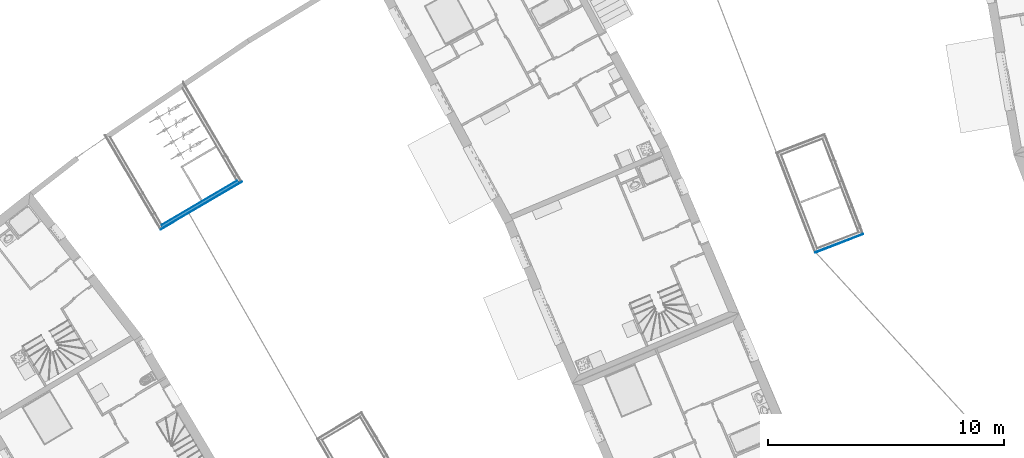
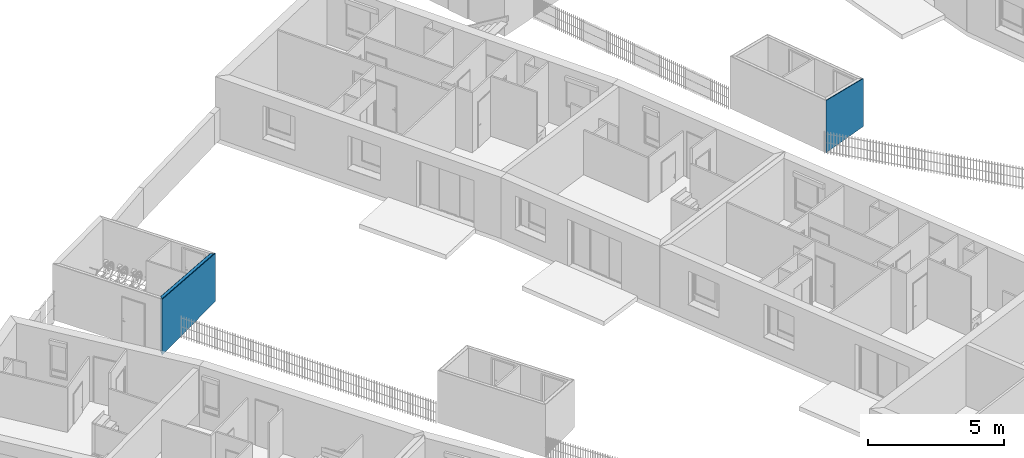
# One storey, part 126 of 195: 6 building element parts, 2 elements without a shape of their own.
"""IFC2X3 building model written with IfcOpenShell, lengths in metres."""

from ifc_helpers import new_model, entity, si_unit, converted_unit, derived_unit, money_unit, direction, frame, origin_with_axes, place, context, subcontext, project, spatial, polyline, outline, extrude, boolean, faceted_brep, material, type_object, element, aggregate, save


model = new_model("IFC2X3")

# Units and contexts
model_context = context("Model", 3, precision=1e-05, world=origin_with_axes(), true_north=direction((0.0, 1.0)))
body_context = subcontext(model_context, "Body", "Model", "MODEL_VIEW")
ifc_project = project(units=[si_unit("LENGTHUNIT", "METRE"), si_unit("AREAUNIT", "SQUARE_METRE"), si_unit("VOLUMEUNIT", "CUBIC_METRE"), converted_unit("PLANEANGLEUNIT", "DEGREE", entity("IfcPlaneAngleMeasure", 0.0174532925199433), si_unit("PLANEANGLEUNIT", "RADIAN"), dimensions=[0, 0, 0, 0, 0, 0, 0]), money_unit("CHF"), converted_unit("TIMEUNIT", "Year", entity("IfcTimeMeasure", 31557600.0), si_unit("TIMEUNIT", "SECOND"), dimensions=[0, 0, 1, 0, 0, 0, 0]), si_unit("MASSUNIT", "GRAM", prefix="KILO"), si_unit("THERMODYNAMICTEMPERATUREUNIT", "DEGREE_CELSIUS"), si_unit("LUMINOUSINTENSITYUNIT", "LUMEN"), si_unit("ENERGYUNIT", "JOULE", prefix="MEGA"), derived_unit("THERMALCONDUCTANCEUNIT", [(si_unit("POWERUNIT", "WATT"), 1), (si_unit("LENGTHUNIT", "METRE"), -1), (si_unit("THERMODYNAMICTEMPERATUREUNIT", "KELVIN"), -1)]), derived_unit("SPECIFICHEATCAPACITYUNIT", [(si_unit("ENERGYUNIT", "JOULE"), 1), (si_unit("MASSUNIT", "GRAM", prefix="KILO"), -1), (si_unit("THERMODYNAMICTEMPERATUREUNIT", "KELVIN"), -1)]), derived_unit("MASSDENSITYUNIT", [(si_unit("MASSUNIT", "GRAM", prefix="KILO"), 1), (si_unit("VOLUMEUNIT", "CUBIC_METRE"), -1)])], contexts=[model_context])

# Site, building, storey
site_placement = place(None, origin_with_axes())
site = spatial("IfcSite", under=ifc_project, at=site_placement, Name="Site", CompositionType="ELEMENT")
building_placement = place(site_placement, origin_with_axes())
building = spatial("IfcBuilding", under=site, at=building_placement, Name="Bâtiment", CompositionType="ELEMENT")
storey_placement = place(building_placement, origin_with_axes())
storey = spatial("IfcBuildingStorey", under=building, at=storey_placement, Name="rdc", CompositionType="ELEMENT", Elevation=0.0)

# Wall, building element parts
wall_type = type_object("IfcWallType", Name="1/Ossatur bois 160   non isol 160", PredefinedType="NOTDEFINED")
wall_1_placement = place(storey_placement, frame((9549.30767197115, -1036.786920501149, 57.7), z_axis=(0.0, 0.0, 1.0), x_axis=(-0.8619777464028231, -0.506946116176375, 0.0)))
wall_1 = element("IfcWall", 1, at=wall_1_placement, inside=storey, type_object=wall_type, Name="Mur-108")
ifc_material_1 = material(Name="Sans Trame 296962763")
building_element_part_1_placement = place(wall_1_placement, origin_with_axes())
building_element_part_1 = element("IfcBuildingElementPart", 2, at=building_element_part_1_placement, material=ifc_material_1, Name="Sans Trame 296962763", context=body_context, shape_type="CSG", body=[
    boolean("DIFFERENCE", boolean("DIFFERENCE", boolean("DIFFERENCE", boolean("DIFFERENCE", extrude(outline(polyline([(0.0, -0.1600000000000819), (4.000000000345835, -0.1600000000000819), (4.000000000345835, -0.1500000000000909), (0.0, -0.1499999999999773), (0.0, -0.1600000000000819)])), origin_with_axes(), (0.0, 0.0, 1.0), 2.75), faceted_brep([(3.850000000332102, -0.1500000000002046, 0.0), (3.849999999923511, -0.1500000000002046, 2.501056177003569), (0.15000000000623, -0.1500000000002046, 2.177348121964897), (0.15000000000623, -0.1500000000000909, 0.0), (0.0, -0.1499999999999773, 0.0), (0.0, -0.1499999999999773, 2.75), (4.000000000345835, -0.1500000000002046, 2.75), (4.000000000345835, -0.1500000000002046, 0.0), (3.840000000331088, -0.1600000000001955, 0.0), (3.840000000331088, -0.1600000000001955, 2.500181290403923), (0.160000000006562, -0.1599999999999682, 2.178223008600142), (0.160000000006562, -0.1599999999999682, 0.0), (0.0, -0.1600000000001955, 0.0), (0.0, -0.1600000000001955, 2.75), (4.000000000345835, -0.1600000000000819, 2.75), (4.000000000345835, -0.1600000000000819, 0.0)], [[[0, 1, 2, 3, 4, 5, 6, 7]], [[8, 9, 1, 0]], [[2, 1, 9, 10]], [[3, 2, 10, 11]], [[3, 11, 12, 4]], [[5, 4, 12, 13]], [[5, 13, 14, 6]], [[14, 15, 7, 6]], [[8, 0, 7, 15]], [[9, 8, 15, 14, 13, 12, 11, 10]]])), faceted_brep([(3.97000000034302, -0.02999999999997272, 0.0), (3.969999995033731, -0.02999999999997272, 2.511554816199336), (0.03000000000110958, -0.02999999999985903, 2.16684948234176), (0.03000000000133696, -0.0300000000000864, 0.0), (0.0, -0.02999999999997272, 0.0), (0.0, -0.02999999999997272, 2.75), (4.000000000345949, -0.02999999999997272, 2.75), (4.000000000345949, -0.02999999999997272, 0.0), (3.850000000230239, -0.150000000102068, 0.0), (3.849999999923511, -0.1500000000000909, 2.501056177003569), (0.15000000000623, -0.1500000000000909, 2.177348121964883), (0.15000000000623, -0.1500000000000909, 0.0), (0.0, -0.1499999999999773, 0.0), (0.0, -0.1499999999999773, 2.75), (4.000000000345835, -0.1500000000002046, 2.75), (4.000000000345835, -0.1500000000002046, 0.0)], [[[0, 1, 2, 3, 4, 5, 6, 7]], [[8, 9, 1, 0]], [[2, 1, 9, 10]], [[3, 2, 10, 11]], [[3, 11, 12, 4]], [[5, 4, 12, 13]], [[5, 13, 14, 6]], [[14, 15, 7, 6]], [[8, 0, 7, 15]], [[9, 8, 15, 14, 13, 12, 11, 10]]])), faceted_brep([(3.990000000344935, -0.009999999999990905, 0.0), (3.98999999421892, -0.009999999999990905, 2.513304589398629), (0.01000000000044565, -0.009999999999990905, 2.165099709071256), (0.01000000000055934, -0.01000000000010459, 0.0), (0.0, -0.01000000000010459, 0.0), (0.0, -0.01000000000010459, 2.75), (4.000000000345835, -0.009999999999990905, 2.75), (4.000000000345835, -0.009999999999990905, 0.0), (3.969999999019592, -0.03000000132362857, 0.0), (3.969999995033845, -0.02999999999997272, 2.511554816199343), (0.03000000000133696, -0.02999999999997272, 2.166849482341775), (0.03000000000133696, -0.0300000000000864, 0.0), (0.0, -0.02999999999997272, 0.0), (0.0, -0.02999999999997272, 2.75), (4.000000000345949, -0.02999999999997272, 2.75), (4.000000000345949, -0.02999999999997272, 0.0)], [[[0, 1, 2, 3, 4, 5, 6, 7]], [[8, 9, 1, 0]], [[2, 1, 9, 10]], [[3, 2, 10, 11]], [[3, 11, 12, 4]], [[5, 4, 12, 13]], [[5, 13, 14, 6]], [[14, 15, 7, 6]], [[8, 0, 7, 15]], [[9, 8, 15, 14, 13, 12, 11, 10]]])), faceted_brep([(3.999999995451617, 1.640273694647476e-09, 2.514179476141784), (0.0, 0.0, 2.164224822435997), (0.0, 0.0, 2.75), (4.000000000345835, 0.0, 2.75), (3.989999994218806, -0.01000000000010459, 2.513304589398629), (0.01000000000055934, -0.01000000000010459, 2.165099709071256), (0.0, 0.0, 0.0), (0.0, -0.01000000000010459, 0.0), (0.0, -0.01000000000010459, 2.75), (4.000000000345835, -0.009999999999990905, 2.75), (4.000000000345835, 0.0, 0.0), (4.000000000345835, -0.009999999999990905, 0.0), (3.989999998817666, -0.01000000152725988, 0.0), (0.01000000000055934, -0.01000000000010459, 0.0)], [[[0, 1, 2, 3]], [[1, 0, 4, 5]], [[1, 6, 7, 8, 2]], [[2, 8, 9, 3]], [[10, 0, 3, 9, 11]], [[12, 4, 0, 10]], [[4, 12, 11, 9, 8, 7, 13, 5]], [[6, 1, 5, 13]], [[6, 13, 7]], [[12, 10, 11]]])),
])
ifc_material_2 = material(Name="Lame d'air 275581439")
building_element_part_2_placement = place(wall_1_placement, origin_with_axes())
building_element_part_2 = element("IfcBuildingElementPart", 3, at=building_element_part_2_placement, material=ifc_material_2, Name="Lame d'air 275581439", context=body_context, shape_type="CSG", body=[
    boolean("DIFFERENCE", boolean("DIFFERENCE", boolean("DIFFERENCE", boolean("DIFFERENCE", extrude(outline(polyline([(0.0, -0.1499999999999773), (4.000000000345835, -0.1500000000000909), (4.000000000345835, -0.02999999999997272), (0.0, -0.02999999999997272), (0.0, -0.1499999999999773)])), origin_with_axes(), (0.0, 0.0, 1.0), 2.75), faceted_brep([(3.850000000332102, -0.1500000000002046, 0.0), (3.849999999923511, -0.1500000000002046, 2.501056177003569), (0.15000000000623, -0.1500000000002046, 2.177348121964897), (0.15000000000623, -0.1500000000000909, 0.0), (0.0, -0.1499999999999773, 0.0), (0.0, -0.1499999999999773, 2.75), (4.000000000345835, -0.1500000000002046, 2.75), (4.000000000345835, -0.1500000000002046, 0.0), (3.840000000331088, -0.1600000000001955, 0.0), (3.840000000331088, -0.1600000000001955, 2.500181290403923), (0.160000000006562, -0.1599999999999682, 2.178223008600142), (0.160000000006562, -0.1599999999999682, 0.0), (0.0, -0.1600000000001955, 0.0), (0.0, -0.1600000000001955, 2.75), (4.000000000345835, -0.1600000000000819, 2.75), (4.000000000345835, -0.1600000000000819, 0.0)], [[[0, 1, 2, 3, 4, 5, 6, 7]], [[8, 9, 1, 0]], [[2, 1, 9, 10]], [[3, 2, 10, 11]], [[3, 11, 12, 4]], [[5, 4, 12, 13]], [[5, 13, 14, 6]], [[14, 15, 7, 6]], [[8, 0, 7, 15]], [[9, 8, 15, 14, 13, 12, 11, 10]]])), faceted_brep([(3.97000000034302, -0.02999999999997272, 0.0), (3.969999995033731, -0.02999999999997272, 2.511554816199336), (0.03000000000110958, -0.02999999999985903, 2.16684948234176), (0.03000000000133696, -0.0300000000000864, 0.0), (0.0, -0.02999999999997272, 0.0), (0.0, -0.02999999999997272, 2.75), (4.000000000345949, -0.02999999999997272, 2.75), (4.000000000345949, -0.02999999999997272, 0.0), (3.850000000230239, -0.150000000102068, 0.0), (3.849999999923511, -0.1500000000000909, 2.501056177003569), (0.15000000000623, -0.1500000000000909, 2.177348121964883), (0.15000000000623, -0.1500000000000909, 0.0), (0.0, -0.1499999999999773, 0.0), (0.0, -0.1499999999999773, 2.75), (4.000000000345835, -0.1500000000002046, 2.75), (4.000000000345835, -0.1500000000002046, 0.0)], [[[0, 1, 2, 3, 4, 5, 6, 7]], [[8, 9, 1, 0]], [[2, 1, 9, 10]], [[3, 2, 10, 11]], [[3, 11, 12, 4]], [[5, 4, 12, 13]], [[5, 13, 14, 6]], [[14, 15, 7, 6]], [[8, 0, 7, 15]], [[9, 8, 15, 14, 13, 12, 11, 10]]])), faceted_brep([(3.990000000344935, -0.009999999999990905, 0.0), (3.98999999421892, -0.009999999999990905, 2.513304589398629), (0.01000000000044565, -0.009999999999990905, 2.165099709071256), (0.01000000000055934, -0.01000000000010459, 0.0), (0.0, -0.01000000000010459, 0.0), (0.0, -0.01000000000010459, 2.75), (4.000000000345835, -0.009999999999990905, 2.75), (4.000000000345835, -0.009999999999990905, 0.0), (3.969999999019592, -0.03000000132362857, 0.0), (3.969999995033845, -0.02999999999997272, 2.511554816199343), (0.03000000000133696, -0.02999999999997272, 2.166849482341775), (0.03000000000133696, -0.0300000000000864, 0.0), (0.0, -0.02999999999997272, 0.0), (0.0, -0.02999999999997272, 2.75), (4.000000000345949, -0.02999999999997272, 2.75), (4.000000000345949, -0.02999999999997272, 0.0)], [[[0, 1, 2, 3, 4, 5, 6, 7]], [[8, 9, 1, 0]], [[2, 1, 9, 10]], [[3, 2, 10, 11]], [[3, 11, 12, 4]], [[5, 4, 12, 13]], [[5, 13, 14, 6]], [[14, 15, 7, 6]], [[8, 0, 7, 15]], [[9, 8, 15, 14, 13, 12, 11, 10]]])), faceted_brep([(3.999999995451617, 1.640273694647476e-09, 2.514179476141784), (0.0, 0.0, 2.164224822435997), (0.0, 0.0, 2.75), (4.000000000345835, 0.0, 2.75), (3.989999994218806, -0.01000000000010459, 2.513304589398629), (0.01000000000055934, -0.01000000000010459, 2.165099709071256), (0.0, 0.0, 0.0), (0.0, -0.01000000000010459, 0.0), (0.0, -0.01000000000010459, 2.75), (4.000000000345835, -0.009999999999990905, 2.75), (4.000000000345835, 0.0, 0.0), (4.000000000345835, -0.009999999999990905, 0.0), (3.989999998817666, -0.01000000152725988, 0.0), (0.01000000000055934, -0.01000000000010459, 0.0)], [[[0, 1, 2, 3]], [[1, 0, 4, 5]], [[1, 6, 7, 8, 2]], [[2, 8, 9, 3]], [[10, 0, 3, 9, 11]], [[12, 4, 0, 10]], [[4, 12, 11, 9, 8, 7, 13, 5]], [[6, 1, 5, 13]], [[6, 13, 7]], [[12, 10, 11]]])),
])
ifc_material_3 = material(Name="Lame d'air 323202302")
building_element_part_3_placement = place(wall_1_placement, origin_with_axes())
building_element_part_3 = element("IfcBuildingElementPart", 4, at=building_element_part_3_placement, material=ifc_material_3, Name="Lame d'air 323202302", context=body_context, shape_type="CSG", body=[
    boolean("DIFFERENCE", boolean("DIFFERENCE", boolean("DIFFERENCE", boolean("DIFFERENCE", extrude(outline(polyline([(0.0, -0.02999999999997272), (4.000000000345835, -0.02999999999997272), (4.000000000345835, -0.009999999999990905), (0.0, -0.009999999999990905), (0.0, -0.02999999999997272)])), origin_with_axes(), (0.0, 0.0, 1.0), 2.75), faceted_brep([(3.850000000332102, -0.1500000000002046, 0.0), (3.849999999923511, -0.1500000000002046, 2.501056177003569), (0.15000000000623, -0.1500000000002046, 2.177348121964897), (0.15000000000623, -0.1500000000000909, 0.0), (0.0, -0.1499999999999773, 0.0), (0.0, -0.1499999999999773, 2.75), (4.000000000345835, -0.1500000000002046, 2.75), (4.000000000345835, -0.1500000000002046, 0.0), (3.840000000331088, -0.1600000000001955, 0.0), (3.840000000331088, -0.1600000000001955, 2.500181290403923), (0.160000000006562, -0.1599999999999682, 2.178223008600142), (0.160000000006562, -0.1599999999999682, 0.0), (0.0, -0.1600000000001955, 0.0), (0.0, -0.1600000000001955, 2.75), (4.000000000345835, -0.1600000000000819, 2.75), (4.000000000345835, -0.1600000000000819, 0.0)], [[[0, 1, 2, 3, 4, 5, 6, 7]], [[8, 9, 1, 0]], [[2, 1, 9, 10]], [[3, 2, 10, 11]], [[3, 11, 12, 4]], [[5, 4, 12, 13]], [[5, 13, 14, 6]], [[14, 15, 7, 6]], [[8, 0, 7, 15]], [[9, 8, 15, 14, 13, 12, 11, 10]]])), faceted_brep([(3.97000000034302, -0.02999999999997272, 0.0), (3.969999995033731, -0.02999999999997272, 2.511554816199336), (0.03000000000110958, -0.02999999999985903, 2.16684948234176), (0.03000000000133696, -0.0300000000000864, 0.0), (0.0, -0.02999999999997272, 0.0), (0.0, -0.02999999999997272, 2.75), (4.000000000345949, -0.02999999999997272, 2.75), (4.000000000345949, -0.02999999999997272, 0.0), (3.850000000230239, -0.150000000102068, 0.0), (3.849999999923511, -0.1500000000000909, 2.501056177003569), (0.15000000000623, -0.1500000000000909, 2.177348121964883), (0.15000000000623, -0.1500000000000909, 0.0), (0.0, -0.1499999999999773, 0.0), (0.0, -0.1499999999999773, 2.75), (4.000000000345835, -0.1500000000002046, 2.75), (4.000000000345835, -0.1500000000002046, 0.0)], [[[0, 1, 2, 3, 4, 5, 6, 7]], [[8, 9, 1, 0]], [[2, 1, 9, 10]], [[3, 2, 10, 11]], [[3, 11, 12, 4]], [[5, 4, 12, 13]], [[5, 13, 14, 6]], [[14, 15, 7, 6]], [[8, 0, 7, 15]], [[9, 8, 15, 14, 13, 12, 11, 10]]])), faceted_brep([(3.990000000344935, -0.009999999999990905, 0.0), (3.98999999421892, -0.009999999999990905, 2.513304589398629), (0.01000000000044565, -0.009999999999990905, 2.165099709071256), (0.01000000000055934, -0.01000000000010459, 0.0), (0.0, -0.01000000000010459, 0.0), (0.0, -0.01000000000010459, 2.75), (4.000000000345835, -0.009999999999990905, 2.75), (4.000000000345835, -0.009999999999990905, 0.0), (3.969999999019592, -0.03000000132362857, 0.0), (3.969999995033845, -0.02999999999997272, 2.511554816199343), (0.03000000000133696, -0.02999999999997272, 2.166849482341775), (0.03000000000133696, -0.0300000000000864, 0.0), (0.0, -0.02999999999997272, 0.0), (0.0, -0.02999999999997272, 2.75), (4.000000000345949, -0.02999999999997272, 2.75), (4.000000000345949, -0.02999999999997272, 0.0)], [[[0, 1, 2, 3, 4, 5, 6, 7]], [[8, 9, 1, 0]], [[2, 1, 9, 10]], [[3, 2, 10, 11]], [[3, 11, 12, 4]], [[5, 4, 12, 13]], [[5, 13, 14, 6]], [[14, 15, 7, 6]], [[8, 0, 7, 15]], [[9, 8, 15, 14, 13, 12, 11, 10]]])), faceted_brep([(3.999999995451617, 1.640273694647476e-09, 2.514179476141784), (0.0, 0.0, 2.164224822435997), (0.0, 0.0, 2.75), (4.000000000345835, 0.0, 2.75), (3.989999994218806, -0.01000000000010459, 2.513304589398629), (0.01000000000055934, -0.01000000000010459, 2.165099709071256), (0.0, 0.0, 0.0), (0.0, -0.01000000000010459, 0.0), (0.0, -0.01000000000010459, 2.75), (4.000000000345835, -0.009999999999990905, 2.75), (4.000000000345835, 0.0, 0.0), (4.000000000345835, -0.009999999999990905, 0.0), (3.989999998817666, -0.01000000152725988, 0.0), (0.01000000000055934, -0.01000000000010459, 0.0)], [[[0, 1, 2, 3]], [[1, 0, 4, 5]], [[1, 6, 7, 8, 2]], [[2, 8, 9, 3]], [[10, 0, 3, 9, 11]], [[12, 4, 0, 10]], [[4, 12, 11, 9, 8, 7, 13, 5]], [[6, 1, 5, 13]], [[6, 13, 7]], [[12, 10, 11]]])),
])
ifc_material_4 = material(Name="Hachure solide 323202122")
building_element_part_4_placement = place(wall_1_placement, origin_with_axes())
building_element_part_4 = element("IfcBuildingElementPart", 5, at=building_element_part_4_placement, material=ifc_material_4, Name="Hachure solide 323202122", context=body_context, shape_type="CSG", body=[
    boolean("DIFFERENCE", boolean("DIFFERENCE", boolean("DIFFERENCE", boolean("DIFFERENCE", extrude(outline(polyline([(0.0, -0.009999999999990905), (4.000000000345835, -0.009999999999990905), (4.000000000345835, 0.0), (0.0, 0.0), (0.0, -0.009999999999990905)])), origin_with_axes(), (0.0, 0.0, 1.0), 2.75), faceted_brep([(3.850000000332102, -0.1500000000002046, 0.0), (3.849999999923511, -0.1500000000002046, 2.501056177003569), (0.15000000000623, -0.1500000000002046, 2.177348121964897), (0.15000000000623, -0.1500000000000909, 0.0), (0.0, -0.1499999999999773, 0.0), (0.0, -0.1499999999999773, 2.75), (4.000000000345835, -0.1500000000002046, 2.75), (4.000000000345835, -0.1500000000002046, 0.0), (3.840000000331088, -0.1600000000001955, 0.0), (3.840000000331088, -0.1600000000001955, 2.500181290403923), (0.160000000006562, -0.1599999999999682, 2.178223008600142), (0.160000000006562, -0.1599999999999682, 0.0), (0.0, -0.1600000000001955, 0.0), (0.0, -0.1600000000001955, 2.75), (4.000000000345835, -0.1600000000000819, 2.75), (4.000000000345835, -0.1600000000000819, 0.0)], [[[0, 1, 2, 3, 4, 5, 6, 7]], [[8, 9, 1, 0]], [[2, 1, 9, 10]], [[3, 2, 10, 11]], [[3, 11, 12, 4]], [[5, 4, 12, 13]], [[5, 13, 14, 6]], [[14, 15, 7, 6]], [[8, 0, 7, 15]], [[9, 8, 15, 14, 13, 12, 11, 10]]])), faceted_brep([(3.97000000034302, -0.02999999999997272, 0.0), (3.969999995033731, -0.02999999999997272, 2.511554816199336), (0.03000000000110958, -0.02999999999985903, 2.16684948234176), (0.03000000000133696, -0.0300000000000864, 0.0), (0.0, -0.02999999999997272, 0.0), (0.0, -0.02999999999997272, 2.75), (4.000000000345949, -0.02999999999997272, 2.75), (4.000000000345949, -0.02999999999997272, 0.0), (3.850000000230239, -0.150000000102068, 0.0), (3.849999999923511, -0.1500000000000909, 2.501056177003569), (0.15000000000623, -0.1500000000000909, 2.177348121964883), (0.15000000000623, -0.1500000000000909, 0.0), (0.0, -0.1499999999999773, 0.0), (0.0, -0.1499999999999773, 2.75), (4.000000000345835, -0.1500000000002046, 2.75), (4.000000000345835, -0.1500000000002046, 0.0)], [[[0, 1, 2, 3, 4, 5, 6, 7]], [[8, 9, 1, 0]], [[2, 1, 9, 10]], [[3, 2, 10, 11]], [[3, 11, 12, 4]], [[5, 4, 12, 13]], [[5, 13, 14, 6]], [[14, 15, 7, 6]], [[8, 0, 7, 15]], [[9, 8, 15, 14, 13, 12, 11, 10]]])), faceted_brep([(3.990000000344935, -0.009999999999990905, 0.0), (3.98999999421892, -0.009999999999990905, 2.513304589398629), (0.01000000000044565, -0.009999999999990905, 2.165099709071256), (0.01000000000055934, -0.01000000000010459, 0.0), (0.0, -0.01000000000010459, 0.0), (0.0, -0.01000000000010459, 2.75), (4.000000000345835, -0.009999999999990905, 2.75), (4.000000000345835, -0.009999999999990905, 0.0), (3.969999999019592, -0.03000000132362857, 0.0), (3.969999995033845, -0.02999999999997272, 2.511554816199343), (0.03000000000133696, -0.02999999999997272, 2.166849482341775), (0.03000000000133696, -0.0300000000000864, 0.0), (0.0, -0.02999999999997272, 0.0), (0.0, -0.02999999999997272, 2.75), (4.000000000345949, -0.02999999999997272, 2.75), (4.000000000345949, -0.02999999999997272, 0.0)], [[[0, 1, 2, 3, 4, 5, 6, 7]], [[8, 9, 1, 0]], [[2, 1, 9, 10]], [[3, 2, 10, 11]], [[3, 11, 12, 4]], [[5, 4, 12, 13]], [[5, 13, 14, 6]], [[14, 15, 7, 6]], [[8, 0, 7, 15]], [[9, 8, 15, 14, 13, 12, 11, 10]]])), faceted_brep([(3.999999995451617, 1.640273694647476e-09, 2.514179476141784), (0.0, 0.0, 2.164224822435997), (0.0, 0.0, 2.75), (4.000000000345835, 0.0, 2.75), (3.989999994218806, -0.01000000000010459, 2.513304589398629), (0.01000000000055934, -0.01000000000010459, 2.165099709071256), (0.0, 0.0, 0.0), (0.0, -0.01000000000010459, 0.0), (0.0, -0.01000000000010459, 2.75), (4.000000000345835, -0.009999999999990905, 2.75), (4.000000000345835, 0.0, 0.0), (4.000000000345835, -0.009999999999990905, 0.0), (3.989999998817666, -0.01000000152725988, 0.0), (0.01000000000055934, -0.01000000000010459, 0.0)], [[[0, 1, 2, 3]], [[1, 0, 4, 5]], [[1, 6, 7, 8, 2]], [[2, 8, 9, 3]], [[10, 0, 3, 9, 11]], [[12, 4, 0, 10]], [[4, 12, 11, 9, 8, 7, 13, 5]], [[6, 1, 5, 13]], [[6, 13, 7]], [[12, 10, 11]]])),
])
aggregate(wall_1, [building_element_part_1, building_element_part_2, building_element_part_3, building_element_part_4])

wall_2_placement = place(storey_placement, frame((9575.618741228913, -1039.004407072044, 57.7), z_axis=(0.0, 0.0, 1.0), x_axis=(-0.9332123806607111, -0.3593252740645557, 0.0)))
wall_2 = element("IfcWall", 6, at=wall_2_placement, inside=storey, type_object=wall_type, Name="Mur-111")
building_element_part_5_placement = place(wall_2_placement, origin_with_axes())
building_element_part_5 = element("IfcBuildingElementPart", 7, at=building_element_part_5_placement, material=ifc_material_4, Name="Hachure solide 323202122", context=body_context, shape_type="CSG", body=[
    boolean("DIFFERENCE", boolean("DIFFERENCE", boolean("DIFFERENCE", boolean("DIFFERENCE", extrude(outline(polyline([(0.0, -0.009999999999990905), (2.193108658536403, -0.009999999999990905), (2.193108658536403, 0.0), (0.0, 0.0), (0.0, -0.009999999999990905)])), origin_with_axes(), (0.0, 0.0, 1.0), 2.75), faceted_brep([(2.043108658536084, -0.1499999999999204, 0.0), (2.043108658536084, -0.1499999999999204, 2.342973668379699), (0.1500000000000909, -0.1499999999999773, 2.177348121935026), (0.1500000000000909, -0.1500000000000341, 0.0), (0.0, -0.1500000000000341, 0.0), (0.0, -0.1500000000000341, 2.75), (2.193108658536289, -0.1499999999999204, 2.75), (2.193108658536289, -0.1499999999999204, 0.0), (2.033108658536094, -0.1599999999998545, 0.0), (2.033108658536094, -0.1599999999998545, 2.342098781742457), (0.1600000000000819, -0.160000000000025, 2.178223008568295), (0.1600000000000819, -0.160000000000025, 0.0), (0.0, -0.160000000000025, 0.0), (0.0, -0.160000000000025, 2.75), (2.193108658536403, -0.160000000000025, 2.75), (2.193108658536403, -0.160000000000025, 0.0)], [[[0, 1, 2, 3, 4, 5, 6, 7]], [[8, 9, 1, 0]], [[2, 1, 9, 10]], [[3, 2, 10, 11]], [[3, 11, 12, 4]], [[5, 4, 12, 13]], [[5, 13, 14, 6]], [[14, 15, 7, 6]], [[8, 0, 7, 15]], [[9, 8, 15, 14, 13, 12, 11, 10]]])), faceted_brep([(2.163108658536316, -0.02999999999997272, 0.0), (2.163108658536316, -0.02999999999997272, 2.353472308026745), (0.0300000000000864, -0.03000000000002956, 2.16684948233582), (0.0300000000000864, -0.02999999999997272, 0.0), (0.0, -0.02999999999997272, 0.0), (0.0, -0.02999999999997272, 2.75), (2.193108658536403, -0.02999999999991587, 2.75), (2.193108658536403, -0.02999999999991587, 0.0), (2.043108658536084, -0.1499999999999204, 0.0), (2.043108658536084, -0.1499999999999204, 2.342973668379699), (0.1500000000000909, -0.1500000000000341, 2.177348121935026), (0.1500000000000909, -0.1500000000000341, 0.0), (0.0, -0.1500000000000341, 0.0), (0.0, -0.1500000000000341, 2.75), (2.193108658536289, -0.1499999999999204, 2.75), (2.193108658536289, -0.1499999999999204, 0.0)], [[[0, 1, 2, 3, 4, 5, 6, 7]], [[8, 9, 1, 0]], [[2, 1, 9, 10]], [[3, 2, 10, 11]], [[3, 11, 12, 4]], [[5, 4, 12, 13]], [[5, 13, 14, 6]], [[14, 15, 7, 6]], [[8, 0, 7, 15]], [[9, 8, 15, 14, 13, 12, 11, 10]]])), faceted_brep([(2.183108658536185, -0.009999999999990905, 0.0), (2.183108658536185, -0.009999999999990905, 2.35522208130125), (0.009999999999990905, -0.009999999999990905, 2.165099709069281), (0.01000000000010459, -0.009999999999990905, 0.0), (0.0, -0.009999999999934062, 0.0), (0.0, -0.009999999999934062, 2.75), (2.193108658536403, -0.009999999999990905, 2.75), (2.193108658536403, -0.009999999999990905, 0.0), (2.163108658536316, -0.02999999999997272, 0.0), (2.163108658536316, -0.02999999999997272, 2.353472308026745), (0.02999999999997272, -0.02999999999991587, 2.166849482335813), (0.0300000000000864, -0.02999999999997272, 0.0), (0.0, -0.02999999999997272, 0.0), (0.0, -0.02999999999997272, 2.75), (2.193108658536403, -0.02999999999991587, 2.75), (2.193108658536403, -0.02999999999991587, 0.0)], [[[0, 1, 2, 3, 4, 5, 6, 7]], [[8, 9, 1, 0]], [[2, 1, 9, 10]], [[3, 2, 10, 11]], [[3, 11, 12, 4]], [[5, 4, 12, 13]], [[5, 13, 14, 6]], [[14, 15, 7, 6]], [[8, 0, 7, 15]], [[9, 8, 15, 14, 13, 12, 11, 10]]])), faceted_brep([(2.193108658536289, 0.0, 2.356096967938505), (0.0, 0.0, 2.164224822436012), (0.0, 0.0, 2.75), (2.193108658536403, 0.0, 2.75), (2.183108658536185, -0.009999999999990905, 2.35522208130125), (0.009999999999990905, -0.009999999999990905, 2.165099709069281), (0.0, 0.0, 0.0), (0.0, -0.009999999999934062, 0.0), (0.0, -0.009999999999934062, 2.75), (2.193108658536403, -0.009999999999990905, 2.75), (2.193108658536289, 0.0, 0.0), (2.193108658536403, -0.009999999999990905, 0.0), (2.183108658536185, -0.009999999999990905, 0.0), (0.01000000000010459, -0.009999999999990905, 0.0)], [[[0, 1, 2, 3]], [[1, 0, 4, 5]], [[1, 6, 7, 8, 2]], [[2, 8, 9, 3]], [[10, 0, 3, 9, 11]], [[12, 4, 0, 10]], [[4, 12, 11, 9, 8, 7, 13, 5]], [[6, 1, 5, 13]], [[6, 13, 7]], [[12, 10, 11]]])),
])
building_element_part_6_placement = place(wall_2_placement, origin_with_axes())
building_element_part_6 = element("IfcBuildingElementPart", 8, at=building_element_part_6_placement, material=ifc_material_3, Name="Lame d'air 323202302", context=body_context, shape_type="CSG", body=[
    boolean("DIFFERENCE", boolean("DIFFERENCE", boolean("DIFFERENCE", boolean("DIFFERENCE", extrude(outline(polyline([(0.0, -0.02999999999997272), (2.193108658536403, -0.02999999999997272), (2.193108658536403, -0.009999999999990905), (0.0, -0.009999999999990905), (0.0, -0.02999999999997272)])), origin_with_axes(), (0.0, 0.0, 1.0), 2.75), faceted_brep([(2.043108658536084, -0.1499999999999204, 0.0), (2.043108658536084, -0.1499999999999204, 2.342973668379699), (0.1500000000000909, -0.1499999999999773, 2.177348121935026), (0.1500000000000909, -0.1500000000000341, 0.0), (0.0, -0.1500000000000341, 0.0), (0.0, -0.1500000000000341, 2.75), (2.193108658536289, -0.1499999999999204, 2.75), (2.193108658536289, -0.1499999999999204, 0.0), (2.033108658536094, -0.1599999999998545, 0.0), (2.033108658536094, -0.1599999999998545, 2.342098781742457), (0.1600000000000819, -0.160000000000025, 2.178223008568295), (0.1600000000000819, -0.160000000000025, 0.0), (0.0, -0.160000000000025, 0.0), (0.0, -0.160000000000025, 2.75), (2.193108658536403, -0.160000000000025, 2.75), (2.193108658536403, -0.160000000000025, 0.0)], [[[0, 1, 2, 3, 4, 5, 6, 7]], [[8, 9, 1, 0]], [[2, 1, 9, 10]], [[3, 2, 10, 11]], [[3, 11, 12, 4]], [[5, 4, 12, 13]], [[5, 13, 14, 6]], [[14, 15, 7, 6]], [[8, 0, 7, 15]], [[9, 8, 15, 14, 13, 12, 11, 10]]])), faceted_brep([(2.163108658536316, -0.02999999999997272, 0.0), (2.163108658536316, -0.02999999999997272, 2.353472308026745), (0.0300000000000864, -0.03000000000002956, 2.16684948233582), (0.0300000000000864, -0.02999999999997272, 0.0), (0.0, -0.02999999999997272, 0.0), (0.0, -0.02999999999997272, 2.75), (2.193108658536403, -0.02999999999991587, 2.75), (2.193108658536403, -0.02999999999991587, 0.0), (2.043108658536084, -0.1499999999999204, 0.0), (2.043108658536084, -0.1499999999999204, 2.342973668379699), (0.1500000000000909, -0.1500000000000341, 2.177348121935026), (0.1500000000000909, -0.1500000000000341, 0.0), (0.0, -0.1500000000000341, 0.0), (0.0, -0.1500000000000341, 2.75), (2.193108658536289, -0.1499999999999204, 2.75), (2.193108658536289, -0.1499999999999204, 0.0)], [[[0, 1, 2, 3, 4, 5, 6, 7]], [[8, 9, 1, 0]], [[2, 1, 9, 10]], [[3, 2, 10, 11]], [[3, 11, 12, 4]], [[5, 4, 12, 13]], [[5, 13, 14, 6]], [[14, 15, 7, 6]], [[8, 0, 7, 15]], [[9, 8, 15, 14, 13, 12, 11, 10]]])), faceted_brep([(2.183108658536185, -0.009999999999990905, 0.0), (2.183108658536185, -0.009999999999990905, 2.35522208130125), (0.009999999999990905, -0.009999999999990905, 2.165099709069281), (0.01000000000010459, -0.009999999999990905, 0.0), (0.0, -0.009999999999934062, 0.0), (0.0, -0.009999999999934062, 2.75), (2.193108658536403, -0.009999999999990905, 2.75), (2.193108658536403, -0.009999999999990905, 0.0), (2.163108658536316, -0.02999999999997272, 0.0), (2.163108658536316, -0.02999999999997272, 2.353472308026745), (0.02999999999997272, -0.02999999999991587, 2.166849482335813), (0.0300000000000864, -0.02999999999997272, 0.0), (0.0, -0.02999999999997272, 0.0), (0.0, -0.02999999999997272, 2.75), (2.193108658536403, -0.02999999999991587, 2.75), (2.193108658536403, -0.02999999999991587, 0.0)], [[[0, 1, 2, 3, 4, 5, 6, 7]], [[8, 9, 1, 0]], [[2, 1, 9, 10]], [[3, 2, 10, 11]], [[3, 11, 12, 4]], [[5, 4, 12, 13]], [[5, 13, 14, 6]], [[14, 15, 7, 6]], [[8, 0, 7, 15]], [[9, 8, 15, 14, 13, 12, 11, 10]]])), faceted_brep([(2.193108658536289, 0.0, 2.356096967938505), (0.0, 0.0, 2.164224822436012), (0.0, 0.0, 2.75), (2.193108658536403, 0.0, 2.75), (2.183108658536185, -0.009999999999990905, 2.35522208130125), (0.009999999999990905, -0.009999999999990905, 2.165099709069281), (0.0, 0.0, 0.0), (0.0, -0.009999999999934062, 0.0), (0.0, -0.009999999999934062, 2.75), (2.193108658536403, -0.009999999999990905, 2.75), (2.193108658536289, 0.0, 0.0), (2.193108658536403, -0.009999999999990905, 0.0), (2.183108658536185, -0.009999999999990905, 0.0), (0.01000000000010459, -0.009999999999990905, 0.0)], [[[0, 1, 2, 3]], [[1, 0, 4, 5]], [[1, 6, 7, 8, 2]], [[2, 8, 9, 3]], [[10, 0, 3, 9, 11]], [[12, 4, 0, 10]], [[4, 12, 11, 9, 8, 7, 13, 5]], [[6, 1, 5, 13]], [[6, 13, 7]], [[12, 10, 11]]])),
])
aggregate(wall_2, [building_element_part_5, building_element_part_6])

save(model, "model.ifc")
